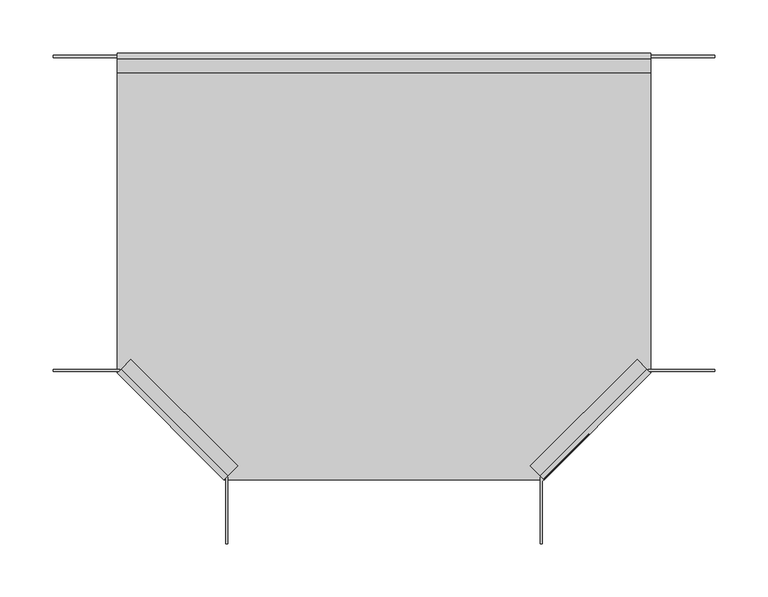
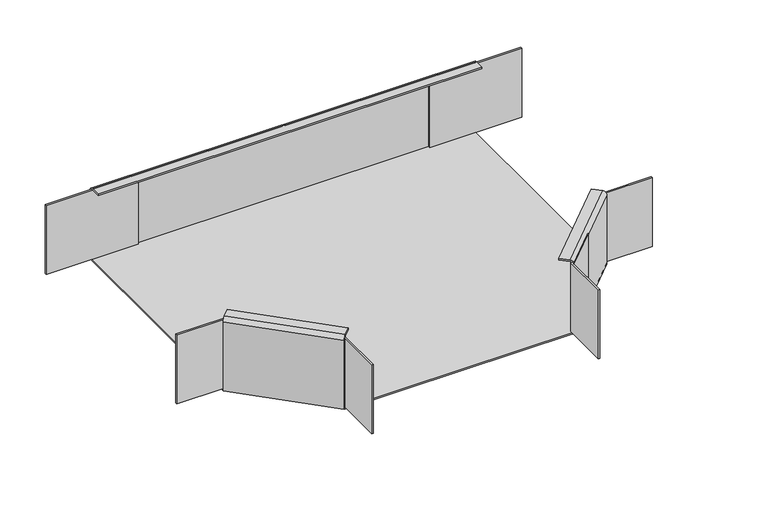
"""IFC4 building model written with IfcOpenShell, lengths in millimetres: cable carrier fitting geometry, TEWT_Horizontal Tee_Basorcanal : Basorcanal TEWT."""

from ifc_helpers import new_model, si_unit, point, frame, frame_2d, origin, place, context, project, spatial, polyline, circle_curve, trimmed, segment, composite_curve, outline, extrude, source, transform, mapped, element, save


def cable_carrier_fitting_8bc6223d(model_context):
    return source(origin(), model_context, "Body", "SweptSolid", [
        extrude(outline(polyline([(204.745166, -189.5979797), (247.7573593, -146.5857864), (310.0, -146.5857864), (310.0, -148.5857864), (248.5857864, -148.5857864), (206.1593796, -191.0121933), (204.745166, -189.5979797)])), frame((0.0, 0.0, -48.0), z_axis=(0.0, 0.0, 1.0), x_axis=(1.0, 0.0, 0.0)), (0.0, 0.0, 1.0), 95.0),
        extrude(outline(polyline([(189.5979797, -204.745166), (192.4264069, -207.5735931), (148.5857864, -251.4142136), (148.5857864, -310.0), (146.5857864, -310.0), (146.5857864, -247.7573593), (189.5979797, -204.745166)])), frame((0.0, 0.0, -48.0), z_axis=(0.0, 0.0, 1.0), x_axis=(1.0, 0.0, 0.0)), (0.0, 0.0, 1.0), 95.0),
        extrude(outline(composite_curve([segment(trimmed(circle_curve(frame_2d((-95.0, 5.0)), 5.0), [point((-95.0, 0.0))], [point((-100.0, 5.0))], False, "CARTESIAN"), True, "CONTINUOUS"), segment(polyline([(-100.0, 5.0), (-100.0, 18.0000001), (-98.0, 18.0000001), (-98.0, 5.0)]), True, "CONTINUOUS"), segment(trimmed(circle_curve(frame_2d((-95.0, 5.0)), 3.0), [point((-98.0, 5.0))], [point((-95.0, 2.0000001))], True, "CARTESIAN"), True, "CONTINUOUS"), segment(polyline([(-95.0, 2.0000001), (0.0, 2.0000001), (0.0, 0.0), (-95.0, 0.0)]), True, "CONTINUOUS")], self_intersect=False)), frame((150.0, -250.0, -50.0), z_axis=(0.7071067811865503, 0.7071067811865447, 0.0), x_axis=(0.0, 0.0, -1.0)), (0.0, 0.0, 1.0), 141.4213562),
        extrude(outline(polyline([(310.0, 148.0), (310.0, 146.0), (190.0, 146.0), (190.0, 148.0), (310.0, 148.0)])), frame((0.0, 0.0, -48.0), z_axis=(0.0, 0.0, 1.0), x_axis=(1.0, 0.0, 0.0)), (0.0, 0.0, 1.0), 95.0),
        extrude(outline(polyline([(-204.745166, -189.5979797), (-206.1593796, -191.0121933), (-248.5857864, -148.5857864), (-310.0, -148.5857864), (-310.0, -146.5857864), (-247.7573593, -146.5857864), (-204.745166, -189.5979797)])), frame((0.0, 0.0, -48.0), z_axis=(0.0, 0.0, 1.0), x_axis=(1.0, 0.0, 0.0)), (0.0, 0.0, 1.0), 95.0),
        extrude(outline(polyline([(-189.5979797, -204.745166), (-146.5857864, -247.7573593), (-146.5857864, -310.0), (-148.5857864, -310.0), (-148.5857864, -248.5857864), (-191.0121933, -206.1593796), (-189.5979797, -204.745166)])), frame((0.0, 0.0, -48.0), z_axis=(0.0, 0.0, 1.0), x_axis=(1.0, 0.0, 0.0)), (0.0, 0.0, 1.0), 95.0),
        extrude(outline(composite_curve([segment(polyline([(-95.0, 0.0), (0.0, 0.0), (0.0, -2.0000001), (-95.0, -2.0000001)]), True, "CONTINUOUS"), segment(trimmed(circle_curve(frame_2d((-95.0, -5.0)), 3.0), [point((-95.0, -2.0000001))], [point((-98.0, -5.0))], True, "CARTESIAN"), True, "CONTINUOUS"), segment(polyline([(-98.0, -5.0), (-98.0, -18.0000001), (-100.0, -18.0000001), (-100.0, -5.0)]), True, "CONTINUOUS"), segment(trimmed(circle_curve(frame_2d((-95.0, -5.0)), 5.0), [point((-100.0, -5.0))], [point((-95.0, 0.0))], False, "CARTESIAN"), True, "CONTINUOUS")], self_intersect=False)), frame((-150.0, -250.0, -50.0), z_axis=(-0.7071067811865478, 0.7071067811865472, 0.0), x_axis=(0.0, 0.0, -1.0)), (0.0, 0.0, 1.0), 141.4213562),
        extrude(outline(polyline([(-310.0, 148.0), (-190.0, 148.0), (-190.0, 146.0), (-310.0, 146.0), (-310.0, 148.0)])), frame((0.0, 0.0, -48.0), z_axis=(0.0, 0.0, 1.0), x_axis=(1.0, 0.0, 0.0)), (0.0, 0.0, 1.0), 95.0),
        extrude(outline(polyline([(-250.0, -150.0), (-250.0, 150.0), (250.0, 150.0), (250.0, -150.0), (150.0, -250.0), (-150.0, -250.0), (-250.0, -150.0)])), frame((0.0, 0.0, -50.0), z_axis=(0.0, 0.0, 1.0), x_axis=(1.0, 0.0, 0.0)), (0.0, 0.0, 1.0), 2.0),
        extrude(outline(composite_curve([segment(polyline([(150.0, 45.0), (150.0, -50.0), (148.0, -50.0), (148.0, 45.0)]), True, "CONTINUOUS"), segment(trimmed(circle_curve(frame_2d((145.0, 45.0)), 3.0), [point((148.0, 45.0))], [point((145.0, 48.0))], True, "CARTESIAN"), True, "CONTINUOUS"), segment(polyline([(145.0, 48.0), (132.0, 48.0), (132.0, 50.0), (145.0, 50.0)]), True, "CONTINUOUS"), segment(trimmed(circle_curve(frame_2d((145.0, 45.0)), 5.0), [point((145.0, 50.0))], [point((150.0, 45.0))], False, "CARTESIAN"), True, "CONTINUOUS")], self_intersect=False)), frame((-250.0, 0.0, 0.0), z_axis=(1.0, 0.0, 0.0), x_axis=(0.0, 1.0, 0.0)), (0.0, 0.0, 1.0), 500.0),
    ])


if __name__ == "__main__":
    model = new_model("IFC4")
    model_context = context("Model", 3, world=origin())
    ifc_project = project(units=[si_unit("LENGTHUNIT", "METRE", prefix="MILLI")], contexts=[model_context])
    site = spatial("IfcSite", under=ifc_project)
    building = spatial("IfcBuilding", under=site)
    placement = place(None, origin())
    cable_carrier_fitting_shape = cable_carrier_fitting_8bc6223d(model_context)
    element("IfcCableCarrierFitting", 1, ObjectType="TEWT_Horizontal Tee_Basorcanal : Basorcanal TEWT", at=placement, inside=building, context=model_context, shape_type="MappedRepresentation", body=[
        mapped(cable_carrier_fitting_shape, transform((0.0, 0.0, 0.0), x_axis=(1.0, 0.0, 0.0), y_axis=(0.0, 1.0, 0.0), z_axis=(0.0, 0.0, 1.0))),
    ])
    save(model, "model.ifc")
